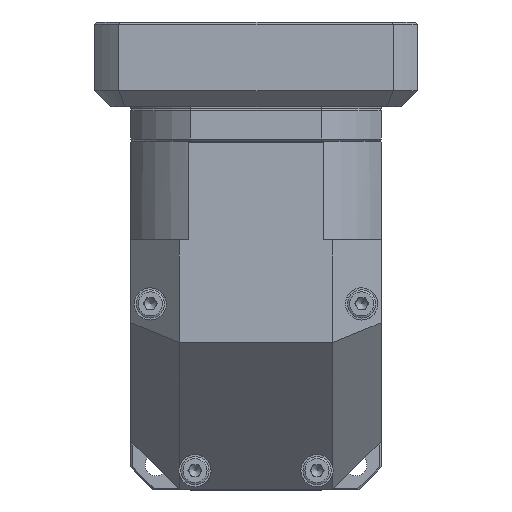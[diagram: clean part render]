
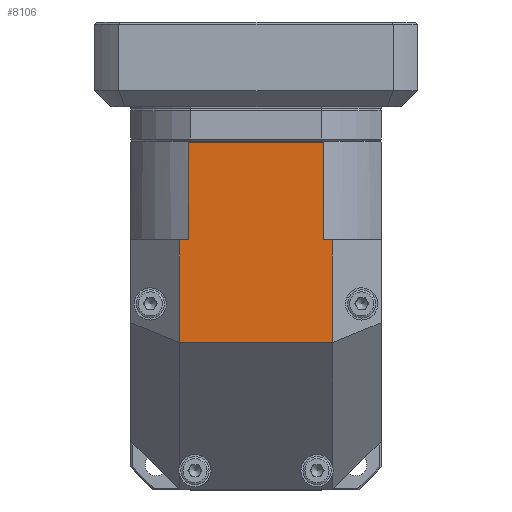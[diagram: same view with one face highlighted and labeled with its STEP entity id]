
A CAD part, front view. The second image highlights one B-rep face of the part: STEP entity #8106.
In plain terms, the highlighted planar face has unit normal (0, -1, 0).
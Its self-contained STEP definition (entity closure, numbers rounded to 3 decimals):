
#8035=CARTESIAN_POINT('',(-31.0,-31.0,55.5));
#8036=DIRECTION('',(0.0,-1.0,0.0));
#8037=DIRECTION('',(0.0,0.0,-1.0));
#8038=AXIS2_PLACEMENT_3D('',#8035,#8036,#8037);
#8039=PLANE('',#8038);
#8040=CARTESIAN_POINT('',(19.,-31.,5.5));
#8041=VERTEX_POINT('',#8040);
#8042=CARTESIAN_POINT('',(19.,-31.0,31.));
#8043=VERTEX_POINT('',#8042);
#8044=CARTESIAN_POINT('',(19.,-31.0,5.5));
#8045=DIRECTION('',(0.0,0.0,1.0));
#8046=VECTOR('',#8045,25.5);
#8047=LINE('',#8044,#8046);
#8048=EDGE_CURVE('',#8041,#8043,#8047,.T.);
#8049=ORIENTED_EDGE('',*,*,#8048,.T.);
#8050=CARTESIAN_POINT('',(16.78,-31.0,31.));
#8051=VERTEX_POINT('',#8050);
#8052=CARTESIAN_POINT('',(19.,-31.0,31.));
#8053=DIRECTION('',(-1.0,0.0,0.0));
#8054=VECTOR('',#8053,2.22);
#8055=LINE('',#8052,#8054);
#8056=EDGE_CURVE('',#8043,#8051,#8055,.T.);
#8057=ORIENTED_EDGE('',*,*,#8056,.T.);
#8058=CARTESIAN_POINT('',(16.78,-31.0,55.2));
#8059=VERTEX_POINT('',#8058);
#8060=CARTESIAN_POINT('',(16.78,-31.0,31.));
#8061=DIRECTION('',(0.0,0.0,1.0));
#8062=VECTOR('',#8061,24.2);
#8063=LINE('',#8060,#8062);
#8064=EDGE_CURVE('',#8051,#8059,#8063,.T.);
#8065=ORIENTED_EDGE('',*,*,#8064,.T.);
#8066=CARTESIAN_POINT('',(-16.78,-31.0,55.2));
#8067=VERTEX_POINT('',#8066);
#8068=CARTESIAN_POINT('',(16.78,-31.0,55.2));
#8069=DIRECTION('',(-1.0,0.0,0.0));
#8070=VECTOR('',#8069,33.56);
#8071=LINE('',#8068,#8070);
#8072=EDGE_CURVE('',#8059,#8067,#8071,.T.);
#8073=ORIENTED_EDGE('',*,*,#8072,.T.);
#8074=CARTESIAN_POINT('',(-16.78,-31.0,31.));
#8075=VERTEX_POINT('',#8074);
#8076=CARTESIAN_POINT('',(-16.78,-31.0,55.2));
#8077=DIRECTION('',(0.0,0.0,-1.0));
#8078=VECTOR('',#8077,24.2);
#8079=LINE('',#8076,#8078);
#8080=EDGE_CURVE('',#8067,#8075,#8079,.T.);
#8081=ORIENTED_EDGE('',*,*,#8080,.T.);
#8082=CARTESIAN_POINT('',(-19.,-31.0,31.));
#8083=VERTEX_POINT('',#8082);
#8084=CARTESIAN_POINT('',(-16.78,-31.0,31.));
#8085=DIRECTION('',(-1.0,0.0,0.0));
#8086=VECTOR('',#8085,2.22);
#8087=LINE('',#8084,#8086);
#8088=EDGE_CURVE('',#8075,#8083,#8087,.T.);
#8089=ORIENTED_EDGE('',*,*,#8088,.T.);
#8090=CARTESIAN_POINT('',(-19.,-31.,5.5));
#8091=VERTEX_POINT('',#8090);
#8092=CARTESIAN_POINT('',(-19.,-31.0,31.));
#8093=DIRECTION('',(0.0,0.0,-1.0));
#8094=VECTOR('',#8093,25.5);
#8095=LINE('',#8092,#8094);
#8096=EDGE_CURVE('',#8083,#8091,#8095,.T.);
#8097=ORIENTED_EDGE('',*,*,#8096,.T.);
#8098=CARTESIAN_POINT('',(19.,-31.,5.5));
#8099=DIRECTION('',(-1.0,0.0,0.0));
#8100=VECTOR('',#8099,38.);
#8101=LINE('',#8098,#8100);
#8102=EDGE_CURVE('',#8041,#8091,#8101,.T.);
#8103=ORIENTED_EDGE('',*,*,#8102,.F.);
#8104=EDGE_LOOP('',(#8049,#8057,#8065,#8073,#8081,#8089,#8097,#8103));
#8105=FACE_OUTER_BOUND('',#8104,.T.);
#8106=ADVANCED_FACE('',(#8105),#8039,.T.);
